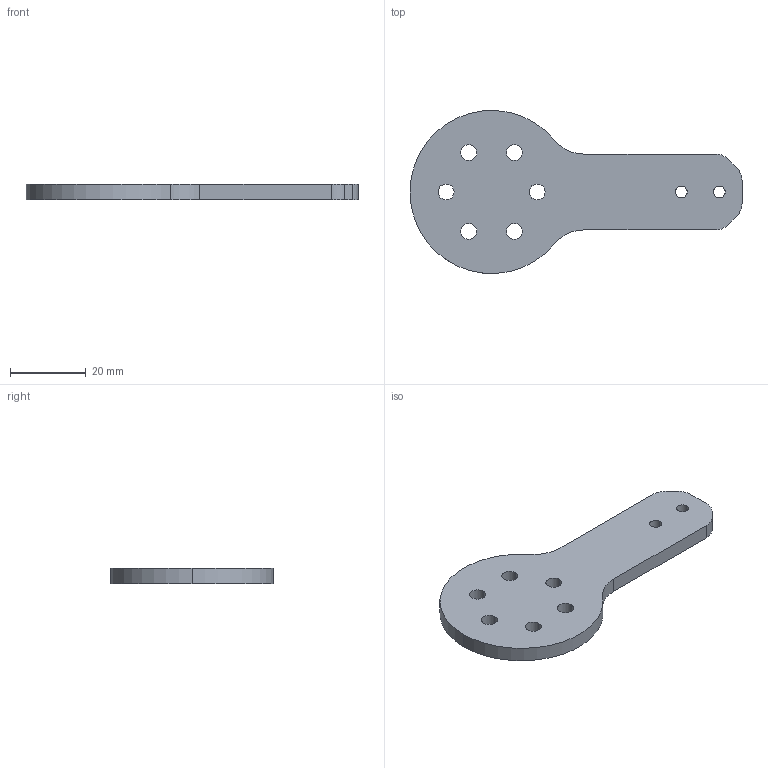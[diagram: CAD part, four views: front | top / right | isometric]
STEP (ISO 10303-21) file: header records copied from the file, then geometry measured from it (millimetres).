
FILE_DESCRIPTION (( 'STEP AP203' ), '1' );
FILE_NAME ('小腿电机出轴链接件.STEP', '2026-07-29T04:07:06', ( '' ), ( '' ), 'SwSTEP 2.0', 'SolidWorks 2025', '' );
FILE_SCHEMA (( 'CONFIG_CONTROL_DESIGN' ));
Length unit declared in the file: millimetre
Products named in the file (1): 小腿电机出轴链接件
Bounding box: 87.5 x 42.91 x 4 mm (x, y, z)
Volume: 8962.2 mm3; surface area: 5754.8 mm2
Topology: 1 solids, 1 shells, 31 faces, 87 edges, 58 vertices
Faces by surface type: cylinder 24, plane 7
Entity records: 1138 total; most frequent: DIRECTION 199, CARTESIAN_POINT 177, ORIENTED_EDGE 174, EDGE_CURVE 87, AXIS2_PLACEMENT_3D 80, VERTEX_POINT 58, CIRCLE 48, EDGE_LOOP 47
